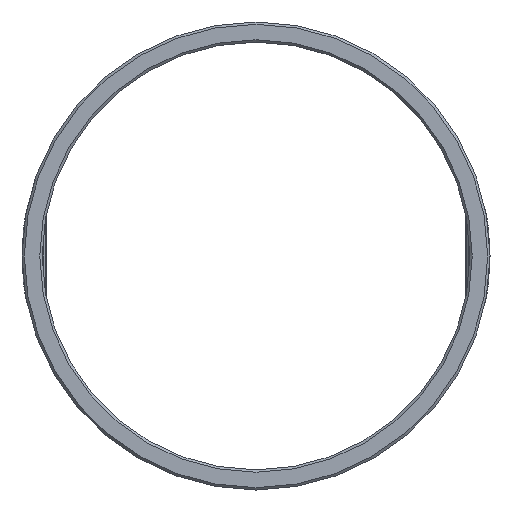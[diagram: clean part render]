
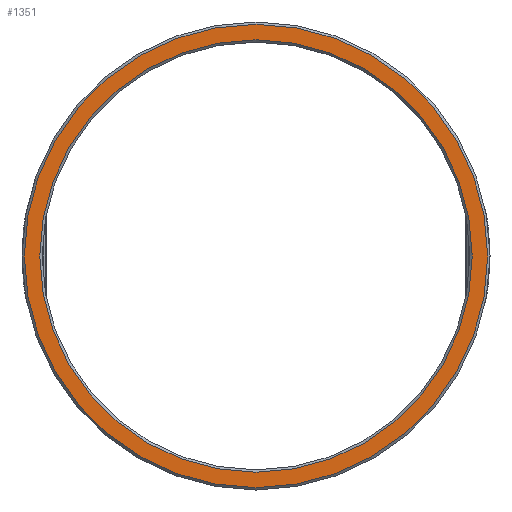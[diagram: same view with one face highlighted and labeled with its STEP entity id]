
A CAD part, left-side view. The second image highlights one B-rep face of the part: STEP entity #1351.
In plain terms, the highlighted planar face has unit normal (-1, 0, 0).
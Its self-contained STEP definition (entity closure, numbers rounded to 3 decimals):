
#1320=CARTESIAN_POINT('',(-14.875,9.1,0.));
#1321=VERTEX_POINT('',#1320);
#1322=CARTESIAN_POINT('',(-14.875,0.0,0.0));
#1323=DIRECTION('',(-1.0,0.0,0.0));
#1324=DIRECTION('',(0.0,-1.0,0.0));
#1325=AXIS2_PLACEMENT_3D('',#1322,#1323,#1324);
#1326=CIRCLE('',#1325,9.1);
#1327=EDGE_CURVE('',#1321,#1321,#1326,.T.);
#1332=CARTESIAN_POINT('',(-14.875,9.425,0.0));
#1333=DIRECTION('',(-1.0,0.0,0.0));
#1334=DIRECTION('',(0.0,0.0,1.0));
#1335=AXIS2_PLACEMENT_3D('',#1332,#1333,#1334);
#1336=PLANE('',#1335);
#1337=CARTESIAN_POINT('',(-14.875,9.75,0.));
#1338=VERTEX_POINT('',#1337);
#1339=CARTESIAN_POINT('',(-14.875,0.0,0.0));
#1340=DIRECTION('',(1.0,0.0,0.0));
#1341=DIRECTION('',(0.0,-1.0,0.0));
#1342=AXIS2_PLACEMENT_3D('',#1339,#1340,#1341);
#1343=CIRCLE('',#1342,9.75);
#1344=EDGE_CURVE('',#1338,#1338,#1343,.T.);
#1345=ORIENTED_EDGE('',*,*,#1344,.F.);
#1346=EDGE_LOOP('',(#1345));
#1347=FACE_OUTER_BOUND('',#1346,.T.);
#1348=ORIENTED_EDGE('',*,*,#1327,.F.);
#1349=EDGE_LOOP('',(#1348));
#1350=FACE_BOUND('',#1349,.T.);
#1351=ADVANCED_FACE('',(#1347,#1350),#1336,.T.);
